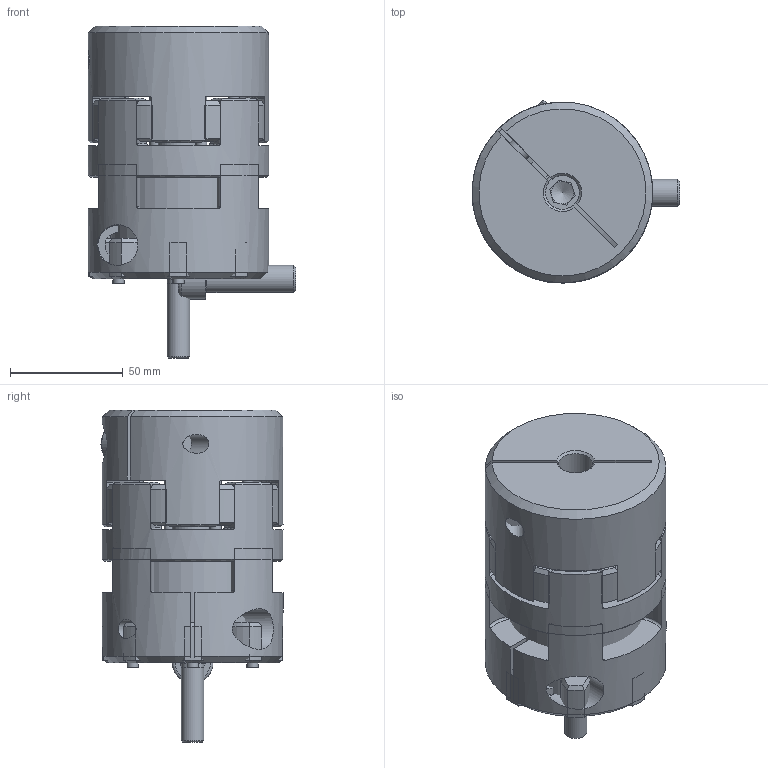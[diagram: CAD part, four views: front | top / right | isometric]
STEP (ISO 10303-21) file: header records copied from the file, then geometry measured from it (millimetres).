
FILE_DESCRIPTION( ( 'Unknown' ), '1' );
FILE_NAME( 'K:/Konstruktion/KBE Fertigungszeichnungen/KBE4/HP/KBE4-38.stp', 'Unknown', ( 'Unknown' ), ( 'Unknown' ), 'XStep 1.0', 'Unknown', ' ' );
FILE_SCHEMA( ( 'automotive_design' ) );
Length unit declared in the file: millimetre
Products named in the file (6): Assem1; KBE 2C - 38_Nabe; ISO EN DIN 4762 M10x35; Zahnkranz_38_D38; Socket Head Cap Screw_DIN_DIN 912 M12 x 40 --- 40N; KBE 4 - 38_Nabe-D
Bounding box: 92 x 80.59 x 147 mm (x, y, z)
Volume: 822185.8 mm3; surface area: 151133.8 mm2
Topology: 10 solids, 10 shells, 530 faces, 1264 edges, 786 vertices
Faces by surface type: cone 194, cylinder 162, plane 122, torus 52
Full cylindrical faces by diameter (mm): 5 x16, 8.376 x2, 9 x2, 10 x4, 11 x2, 12 x2, 13 x2, 16 x2, 18 x4, 20 x2, 38 x2, 60 x2, 80 x2
Entity records: 8508 total; most frequent: CARTESIAN_POINT 2094, DIRECTION 1275, ORIENTED_EDGE 1174, EDGE_CURVE 587, AXIS2_PLACEMENT_3D 580, VERTEX_POINT 383, EDGE_LOOP 323, CIRCLE 309
